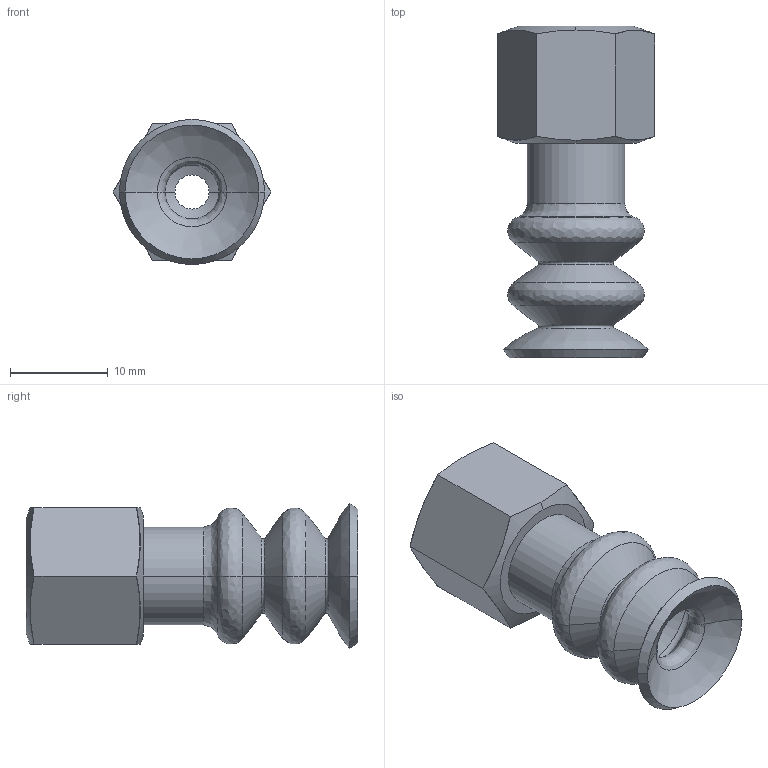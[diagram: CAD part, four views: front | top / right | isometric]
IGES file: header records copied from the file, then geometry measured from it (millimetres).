
Start section:  PTC IGES file: 1820415079\1820415079.iges
Global section: file name: 1820415079\1820415079.iges; native system: Creo Parametric by PTC Inc.; preprocessor: 2023092; author: GND7HC; organization: Unknown; date: 20250124.160047; units: millimetre
Bounding box: 16.17 x 34 x 14.9 mm (x, y, z)
Surface area: 2825.9 mm2 (no closed solid volume)
Topology: 0 solids, 0 shells, 62 faces, 268 edges, 268 vertices
Faces by surface type: revolution 54, bspline 8
